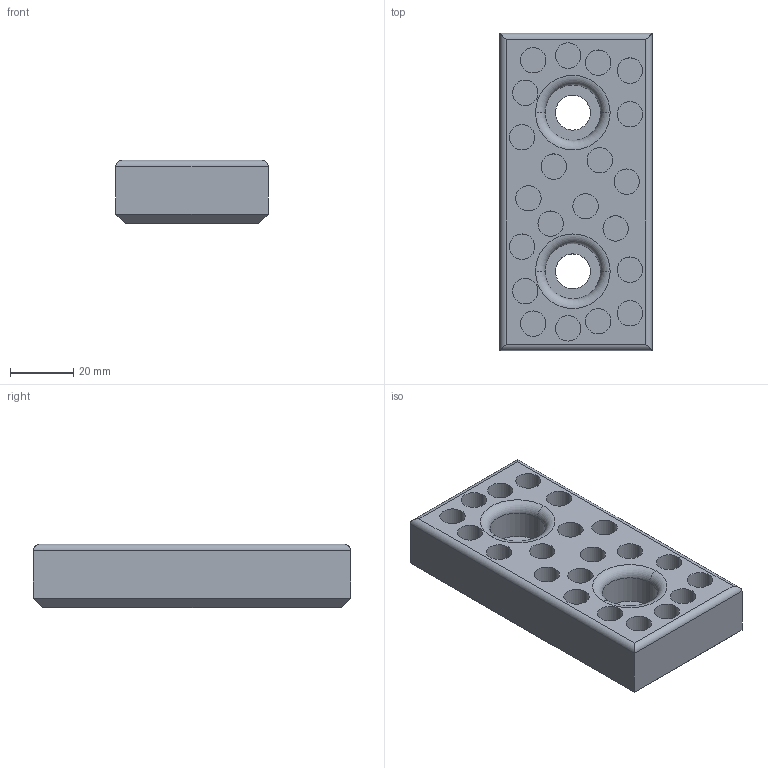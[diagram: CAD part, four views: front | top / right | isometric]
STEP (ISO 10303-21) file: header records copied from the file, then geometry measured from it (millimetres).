
FILE_DESCRIPTION (( 'STEP AP214' ), '1' );
FILE_NAME ('SW224-02-48x100.STEP', '2020-10-19T07:42:43', ( 'August' ), ( '' ), 'SwSTEP 2.0', 'SolidWorks 2018', '' );
FILE_SCHEMA (( 'AUTOMOTIVE_DESIGN' ));
Length unit declared in the file: millimetre
Products named in the file (1): SW224-02-48x100
Bounding box: 48 x 100 x 20 mm (x, y, z)
Volume: 79753.5 mm3; surface area: 19676.2 mm2
Topology: 1 solids, 1 shells, 91 faces, 186 edges, 120 vertices
Faces by surface type: cylinder 54, plane 33, torus 4
Entity records: 2950 total; most frequent: CARTESIAN_POINT 582, DIRECTION 470, ORIENTED_EDGE 372, AXIS2_PLACEMENT_3D 200, EDGE_CURVE 186, VERTEX_POINT 120, EDGE_LOOP 118, CIRCLE 108
